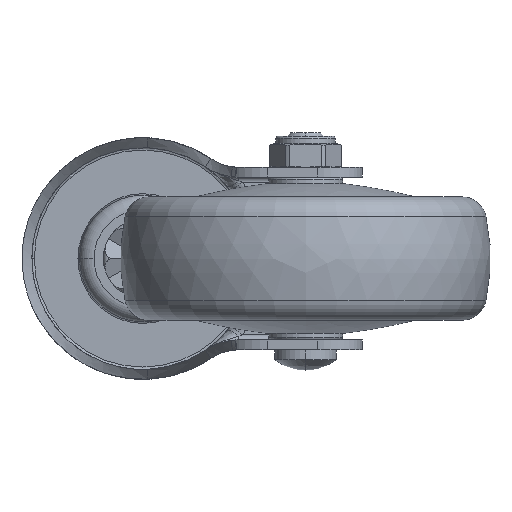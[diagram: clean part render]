
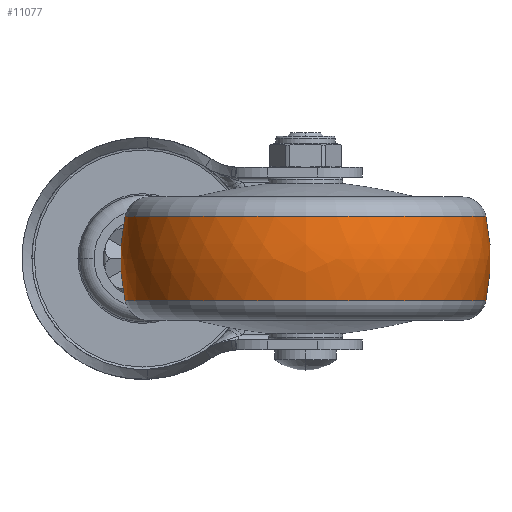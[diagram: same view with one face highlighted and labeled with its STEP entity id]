
A CAD part, front view. The second image highlights one B-rep face of the part: STEP entity #11077.
In plain terms, the highlighted free-form (B-spline) face has degree [3, 3] with [7, 4] control points.
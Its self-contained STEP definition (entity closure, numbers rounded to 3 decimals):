
#10350=CARTESIAN_POINT('',(-8.571,0.,0.));
#10351=DIRECTION('',(-1.,0.,0.));
#10352=DIRECTION('',(0.,1.,0.));
#10353=AXIS2_PLACEMENT_3D('',#10350,#10351,#10352);
#10365=CARTESIAN_POINT('',(0.,-2.5,0.));
#10366=DIRECTION('',(0.,0.,1.));
#10367=DIRECTION('',(0.214,0.977,0.));
#10368=AXIS2_PLACEMENT_3D('',#10365,#10366,#10367);
#10370=CARTESIAN_POINT('',(0.,2.5,0.));
#10371=DIRECTION('',(0.,0.,-1.));
#10372=DIRECTION('',(0.214,-0.977,0.));
#10373=AXIS2_PLACEMENT_3D('',#10370,#10371,#10372);
#10375=CARTESIAN_POINT('',(8.571,0.,0.));
#10376=DIRECTION('',(-1.,0.,0.));
#10377=DIRECTION('',(0.,1.,0.));
#10378=AXIS2_PLACEMENT_3D('',#10375,#10376,#10377);
#10941=CARTESIAN_POINT('',(8.571,36.571,0.));
#10943=VERTEX_POINT('',#10941);
#10944=CARTESIAN_POINT('',(-8.571,36.571,0.));
#10945=VERTEX_POINT('',#10944);
#10949=CARTESIAN_POINT('',(8.571,-36.571,0.));
#10951=VERTEX_POINT('',#10949);
#10952=CARTESIAN_POINT('',(-8.571,-36.571,0.));
#10953=VERTEX_POINT('',#10952);
#11041=CARTESIAN_POINT('',(-8.909,-36.423,
2.292));
#11042=CARTESIAN_POINT('',(-3.02,-37.766,
2.376));
#11043=CARTESIAN_POINT('',(3.02,-37.766,
2.376));
#11044=CARTESIAN_POINT('',(8.909,-36.423,
2.292));
#11045=CARTESIAN_POINT('',(-8.909,-37.834,
-20.123));
#11046=CARTESIAN_POINT('',(-3.02,-39.228,
-20.865));
#11047=CARTESIAN_POINT('',(3.02,-39.228,
-20.865));
#11048=CARTESIAN_POINT('',(8.909,-37.834,
-20.123));
#11049=CARTESIAN_POINT('',(-8.909,-22.459,
-36.495));
#11050=CARTESIAN_POINT('',(-3.02,-23.287,
-37.841));
#11051=CARTESIAN_POINT('',(3.02,-23.287,
-37.841));
#11052=CARTESIAN_POINT('',(8.909,-22.459,
-36.495));
#11053=CARTESIAN_POINT('',(-8.909,0.,
-36.495));
#11054=CARTESIAN_POINT('',(-3.02,0.,
-37.841));
#11055=CARTESIAN_POINT('',(3.02,0.,
-37.841));
#11056=CARTESIAN_POINT('',(8.909,0.,-36.495));
#11057=CARTESIAN_POINT('',(-8.909,22.459,
-36.495));
#11058=CARTESIAN_POINT('',(-3.02,23.287,
-37.841));
#11059=CARTESIAN_POINT('',(3.02,23.287,
-37.841));
#11060=CARTESIAN_POINT('',(8.909,22.459,
-36.495));
#11061=CARTESIAN_POINT('',(-8.909,37.834,
-20.123));
#11062=CARTESIAN_POINT('',(-3.02,39.228,
-20.865));
#11063=CARTESIAN_POINT('',(3.02,39.228,
-20.865));
#11064=CARTESIAN_POINT('',(8.909,37.834,
-20.123));
#11065=CARTESIAN_POINT('',(-8.909,36.423,
2.292));
#11066=CARTESIAN_POINT('',(-3.02,37.766,
2.376));
#11067=CARTESIAN_POINT('',(3.02,37.766,2.376));
#11068=CARTESIAN_POINT('',(8.909,36.423,2.292));
#11069=(BOUNDED_SURFACE()B_SPLINE_SURFACE(3,3,((#11041,#11042,#11043,#11044),(
#11045,#11046,#11047,#11048),(#11049,#11050,#11051,#11052),(#11053,#11054,
#11055,#11056),(#11057,#11058,#11059,#11060),(#11061,#11062,#11063,#11064),(
#11065,#11066,#11067,#11068)),.UNSPECIFIED.,.F.,.F.,.F.)B_SPLINE_SURFACE_WITH_KNOTS((4,3,4),(4,4),(0.,1.,2.),(0.,1.),.UNSPECIFIED.)GEOMETRIC_REPRESENTATION_ITEM()RATIONAL_B_SPLINE_SURFACE(((1.202,1.182,
1.182,1.202),(0.95,0.934,
0.934,0.95),(0.95,0.934,
0.934,0.95),(1.202,1.182,
1.182,1.202),(0.95,0.934,
0.934,0.95),(0.95,0.934,
0.934,0.95),(1.202,1.182,
1.182,1.202)))REPRESENTATION_ITEM('')SURFACE());
#11070=ORIENTED_EDGE('',*,*,#11031,.T.);
#11071=ORIENTED_EDGE('',*,*,#10984,.T.);
#11072=ORIENTED_EDGE('',*,*,#11035,.F.);
#11074=ORIENTED_EDGE('',*,*,#11073,.F.);
#11075=EDGE_LOOP('',(#11070,#11071,#11072,#11074));
#11076=FACE_OUTER_BOUND('',#11075,.F.);
#10354=CIRCLE('',#10353,36.571);
#10369=CIRCLE('',#10368,40.);
#10374=CIRCLE('',#10373,40.);
#10379=CIRCLE('',#10378,36.571);
#10984=EDGE_CURVE('',#10945,#10953,#10354,.T.);
#11031=EDGE_CURVE('',#10943,#10945,#10369,.T.);
#11035=EDGE_CURVE('',#10951,#10953,#10374,.T.);
#11073=EDGE_CURVE('',#10943,#10951,#10379,.T.);
#11077=ADVANCED_FACE('',(#11076),#11069,.T.);
